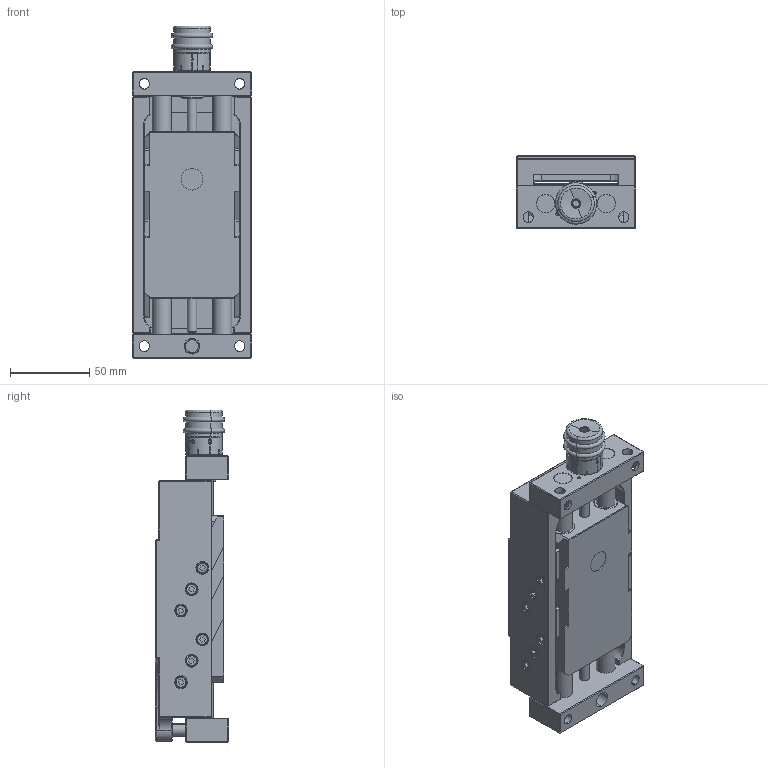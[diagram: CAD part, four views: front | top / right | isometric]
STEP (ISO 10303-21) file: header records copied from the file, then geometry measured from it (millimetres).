
FILE_DESCRIPTION (( 'STEP AP203' ), '1' );
FILE_NAME ('HT12-SK-Hubtisch.STEP', '2016-01-15T16:17:34', ( '' ), ( '' ), 'SwSTEP 2.0', 'SolidWorks 2014', '' );
FILE_SCHEMA (( 'CONFIG_CONTROL_DESIGN' ));
Length unit declared in the file: millimetre
Products named in the file (4): HT12-SK-Hubtisch; HT12-000-01-Festteil-SK; HT12-000-02-Schlitten-komplett; HT12-000-03-Hubplatte-komplett
Assembly tree (3 placements, depth 2):
  HT12-SK-Hubtisch
    HT12-000-01-Festteil-SK
    HT12-000-02-Schlitten-komplett
    HT12-000-03-Hubplatte-komplett
Bounding box: 75 x 46 x 208.89 mm (x, y, z)
Volume: 384213.7 mm3; surface area: 121836.1 mm2
Topology: 3 solids, 18 shells, 1049 faces, 2535 edges, 1589 vertices
Faces by surface type: plane 447, cylinder 353, cone 153, torus 53, bspline 41, sphere 2
Entity records: 37553 total; most frequent: CARTESIAN_POINT 12427, DIRECTION 5272, ORIENTED_EDGE 5022, EDGE_CURVE 2511, AXIS2_PLACEMENT_3D 1996, VERTEX_POINT 1589, VECTOR 1280, LINE 1280
